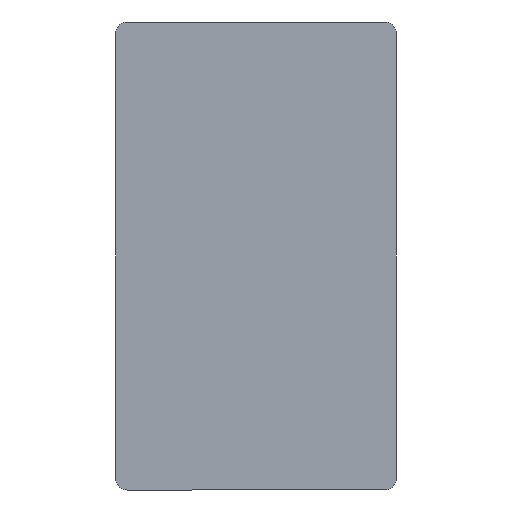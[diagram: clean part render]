
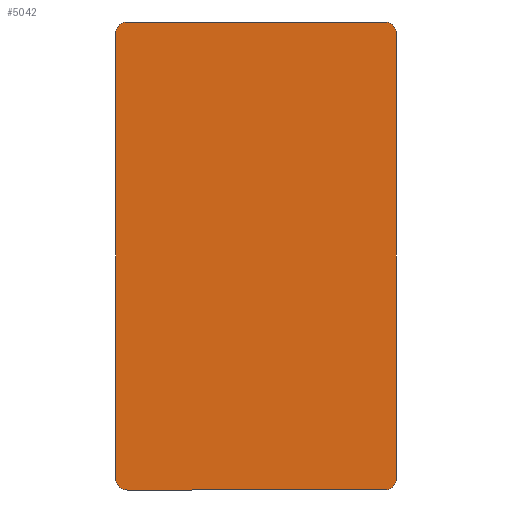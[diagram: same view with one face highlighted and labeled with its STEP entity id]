
A CAD part, front view. The second image highlights one B-rep face of the part: STEP entity #5042.
In plain terms, the highlighted planar face has unit normal (0, -1, 0).
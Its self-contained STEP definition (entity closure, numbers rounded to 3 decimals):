
#81 = DIRECTION ( 'NONE',  ( 0., 0., 1. ) ) ;
#124 = DIRECTION ( 'NONE',  ( 0., -1., 0. ) ) ;
#140 = DIRECTION ( 'NONE',  ( 0., 0., -1. ) ) ;
#186 = CARTESIAN_POINT ( 'NONE',  ( 144.7, 106.414, 330.671 ) ) ;
#251 = FACE_OUTER_BOUND ( 'NONE', #504, .T. ) ;
#412 = AXIS2_PLACEMENT_3D ( 'NONE', #1266, #2124, #884 ) ;
#504 = EDGE_LOOP ( 'NONE', ( #548, #3366, #4866, #882, #1738, #1257, #4247, #751 ) ) ;
#539 = DIRECTION ( 'NONE',  ( 1., 0., 0. ) ) ;
#548 = ORIENTED_EDGE ( 'NONE', *, *, #4943, .T. ) ;
#557 = DIRECTION ( 'NONE',  ( 0., 0., -1. ) ) ;
#558 = AXIS2_PLACEMENT_3D ( 'NONE', #805, #2503, #3763 ) ;
#607 = VECTOR ( 'NONE', #539, 1000. ) ;
#627 = DIRECTION ( 'NONE',  ( 0., -1., 0. ) ) ;
#729 = AXIS2_PLACEMENT_3D ( 'NONE', #3102, #627, #140 ) ;
#751 = ORIENTED_EDGE ( 'NONE', *, *, #1667, .T. ) ;
#805 = CARTESIAN_POINT ( 'NONE',  ( 154.7, 106.414, -49.329 ) ) ;
#851 = DIRECTION ( 'NONE',  ( 0., 0., -1. ) ) ;
#882 = ORIENTED_EDGE ( 'NONE', *, *, #4716, .T. ) ;
#884 = DIRECTION ( 'NONE',  ( 0., 0., -1. ) ) ;
#1072 = VERTEX_POINT ( 'NONE', #2721 ) ;
#1078 = CARTESIAN_POINT ( 'NONE',  ( 374.7, 106.414, -59.329 ) ) ;
#1117 = VERTEX_POINT ( 'NONE', #1617 ) ;
#1257 = ORIENTED_EDGE ( 'NONE', *, *, #3438, .T. ) ;
#1266 = CARTESIAN_POINT ( 'NONE',  ( 374.7, 106.414, -49.329 ) ) ;
#1617 = CARTESIAN_POINT ( 'NONE',  ( 144.7, 106.414, -49.329 ) ) ;
#1667 = EDGE_CURVE ( 'NONE', #1072, #5194, #4664, .T. ) ;
#1689 = CIRCLE ( 'NONE', #5067, 10. ) ;
#1693 = CARTESIAN_POINT ( 'NONE',  ( 374.7, 106.414, 340.671 ) ) ;
#1738 = ORIENTED_EDGE ( 'NONE', *, *, #5190, .T. ) ;
#1745 = EDGE_CURVE ( 'NONE', #2850, #2837, #3276, .T. ) ;
#1865 = VECTOR ( 'NONE', #851, 1000. ) ;
#2015 = CIRCLE ( 'NONE', #412, 10. ) ;
#2124 = DIRECTION ( 'NONE',  ( 0., -1., 0. ) ) ;
#2149 = VECTOR ( 'NONE', #3133, 1000. ) ;
#2250 = CARTESIAN_POINT ( 'NONE',  ( 154.7, 106.414, -59.329 ) ) ;
#2289 = VERTEX_POINT ( 'NONE', #1078 ) ;
#2324 = PLANE ( 'NONE',  #4718 ) ;
#2503 = DIRECTION ( 'NONE',  ( 0., -1., 0. ) ) ;
#2505 = CIRCLE ( 'NONE', #558, 10. ) ;
#2721 = CARTESIAN_POINT ( 'NONE',  ( 384.7, 106.414, -49.329 ) ) ;
#2837 = VERTEX_POINT ( 'NONE', #4266 ) ;
#2850 = VERTEX_POINT ( 'NONE', #1693 ) ;
#2972 = EDGE_CURVE ( 'NONE', #2837, #3583, #1689, .T. ) ;
#3102 = CARTESIAN_POINT ( 'NONE',  ( 374.7, 106.414, 330.671 ) ) ;
#3133 = DIRECTION ( 'NONE',  ( -1., 0., 0. ) ) ;
#3142 = CARTESIAN_POINT ( 'NONE',  ( 154.7, 106.414, 330.671 ) ) ;
#3276 = LINE ( 'NONE', #3511, #2149 ) ;
#3324 = VERTEX_POINT ( 'NONE', #5066 ) ;
#3366 = ORIENTED_EDGE ( 'NONE', *, *, #1745, .T. ) ;
#3393 = EDGE_CURVE ( 'NONE', #2289, #1072, #2015, .T. ) ;
#3438 = EDGE_CURVE ( 'NONE', #3324, #2289, #4003, .T. ) ;
#3511 = CARTESIAN_POINT ( 'NONE',  ( 374.7, 106.414, 340.671 ) ) ;
#3583 = VERTEX_POINT ( 'NONE', #186 ) ;
#3587 = DIRECTION ( 'NONE',  ( 0., -1., 0. ) ) ;
#3599 = CARTESIAN_POINT ( 'NONE',  ( 374.7, 106.414, 330.671 ) ) ;
#3763 = DIRECTION ( 'NONE',  ( 0., 0., -1. ) ) ;
#3794 = CARTESIAN_POINT ( 'NONE',  ( 144.7, 106.414, 330.671 ) ) ;
#4003 = LINE ( 'NONE', #2250, #607 ) ;
#4041 = DIRECTION ( 'NONE',  ( 0., 0., -1. ) ) ;
#4208 = VECTOR ( 'NONE', #81, 1000. ) ;
#4247 = ORIENTED_EDGE ( 'NONE', *, *, #3393, .T. ) ;
#4266 = CARTESIAN_POINT ( 'NONE',  ( 154.7, 106.414, 340.671 ) ) ;
#4629 = CIRCLE ( 'NONE', #729, 10. ) ;
#4664 = LINE ( 'NONE', #4794, #4208 ) ;
#4716 = EDGE_CURVE ( 'NONE', #3583, #1117, #5364, .T. ) ;
#4718 = AXIS2_PLACEMENT_3D ( 'NONE', #3599, #124, #557 ) ;
#4794 = CARTESIAN_POINT ( 'NONE',  ( 384.7, 106.414, -49.329 ) ) ;
#4866 = ORIENTED_EDGE ( 'NONE', *, *, #2972, .T. ) ;
#4943 = EDGE_CURVE ( 'NONE', #5194, #2850, #4629, .T. ) ;
#5042 = ADVANCED_FACE ( 'NONE', ( #251 ), #2324, .T. ) ;
#5044 = CARTESIAN_POINT ( 'NONE',  ( 384.7, 106.414, 330.671 ) ) ;
#5066 = CARTESIAN_POINT ( 'NONE',  ( 154.7, 106.414, -59.329 ) ) ;
#5067 = AXIS2_PLACEMENT_3D ( 'NONE', #3142, #3587, #4041 ) ;
#5190 = EDGE_CURVE ( 'NONE', #1117, #3324, #2505, .T. ) ;
#5194 = VERTEX_POINT ( 'NONE', #5044 ) ;
#5364 = LINE ( 'NONE', #3794, #1865 ) ;
